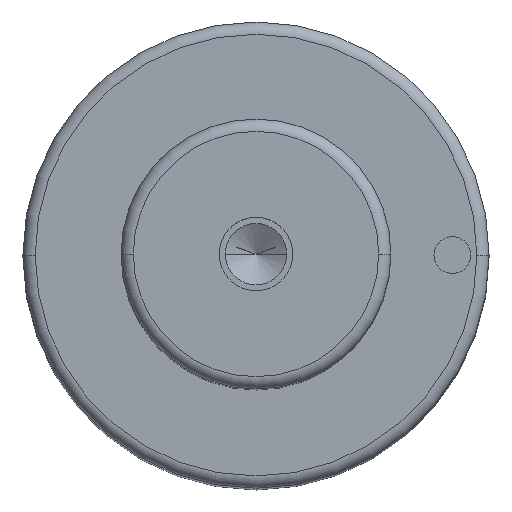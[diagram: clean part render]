
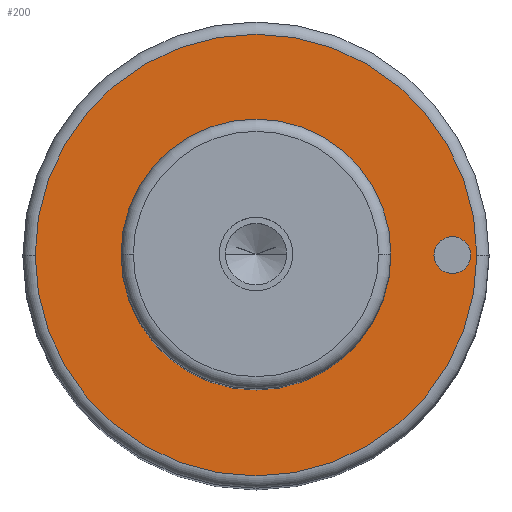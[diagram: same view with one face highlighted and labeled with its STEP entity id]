
A CAD part, top view. The second image highlights one B-rep face of the part: STEP entity #200.
In plain terms, the highlighted planar face has unit normal (0, 0, 1).
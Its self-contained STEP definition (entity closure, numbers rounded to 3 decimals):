
#99=PLANE('',#596);
#107=FACE_BOUND('',#265,.T.);
#108=FACE_BOUND('',#266,.T.);
#109=FACE_BOUND('',#267,.T.);
#200=ADVANCED_FACE('',(#107,#108,#109),#99,.T.);
#265=EDGE_LOOP('',(#359,#360));
#266=EDGE_LOOP('',(#361,#362));
#267=EDGE_LOOP('',(#363,#364));
#359=ORIENTED_EDGE('',*,*,#460,.F.);
#360=ORIENTED_EDGE('',*,*,#461,.F.);
#361=ORIENTED_EDGE('',*,*,#485,.F.);
#362=ORIENTED_EDGE('',*,*,#486,.F.);
#363=ORIENTED_EDGE('',*,*,#456,.T.);
#364=ORIENTED_EDGE('',*,*,#454,.T.);
#411=VERTEX_POINT('',#808);
#412=VERTEX_POINT('',#810);
#413=VERTEX_POINT('',#816);
#416=VERTEX_POINT('',#821);
#430=VERTEX_POINT('',#875);
#431=VERTEX_POINT('',#876);
#454=EDGE_CURVE('',#412,#411,#513,.T.);
#456=EDGE_CURVE('',#411,#412,#514,.T.);
#460=EDGE_CURVE('',#416,#413,#518,.T.);
#461=EDGE_CURVE('',#413,#416,#519,.T.);
#485=EDGE_CURVE('',#430,#431,#533,.T.);
#486=EDGE_CURVE('',#431,#430,#534,.T.);
#513=CIRCLE('',#558,11.);
#514=CIRCLE('',#560,11.);
#518=CIRCLE('',#565,18.);
#519=CIRCLE('',#567,18.);
#533=CIRCLE('',#594,1.5);
#534=CIRCLE('',#595,1.5);
#558=AXIS2_PLACEMENT_3D('',#809,#647,#648);
#560=AXIS2_PLACEMENT_3D('',#813,#652,#653);
#565=AXIS2_PLACEMENT_3D('',#822,#662,#663);
#567=AXIS2_PLACEMENT_3D('',#824,#666,#667);
#594=AXIS2_PLACEMENT_3D('',#874,#730,#731);
#595=AXIS2_PLACEMENT_3D('',#877,#732,#733);
#596=AXIS2_PLACEMENT_3D('',#878,#734,#735);
#647=DIRECTION('',(0.,0.,-1.));
#648=DIRECTION('',(0.,1.,0.));
#652=DIRECTION('',(0.,0.,-1.));
#653=DIRECTION('',(0.,-1.,0.));
#662=DIRECTION('',(0.,0.,-1.));
#663=DIRECTION('',(0.,1.,0.));
#666=DIRECTION('',(0.,0.,-1.));
#667=DIRECTION('',(0.,-1.,0.));
#730=DIRECTION('',(0.,0.,1.));
#731=DIRECTION('',(0.,1.,0.));
#732=DIRECTION('',(0.,0.,1.));
#733=DIRECTION('',(0.,-1.,0.));
#734=DIRECTION('',(0.,0.,1.));
#735=DIRECTION('',(0.,-1.,0.));
#808=CARTESIAN_POINT('',(-11.,0.,84.));
#809=CARTESIAN_POINT('',(0.,0.,84.));
#810=CARTESIAN_POINT('',(11.,0.,84.));
#813=CARTESIAN_POINT('',(0.,0.,84.));
#816=CARTESIAN_POINT('',(-18.,0.,84.));
#821=CARTESIAN_POINT('',(18.,0.,84.));
#822=CARTESIAN_POINT('',(0.,0.,84.));
#824=CARTESIAN_POINT('',(0.,0.,84.));
#874=CARTESIAN_POINT('',(16.,0.,84.));
#875=CARTESIAN_POINT('',(14.5,0.,84.));
#876=CARTESIAN_POINT('',(17.5,0.,84.));
#877=CARTESIAN_POINT('',(16.,0.,84.));
#878=CARTESIAN_POINT('',(0.,0.,84.));
